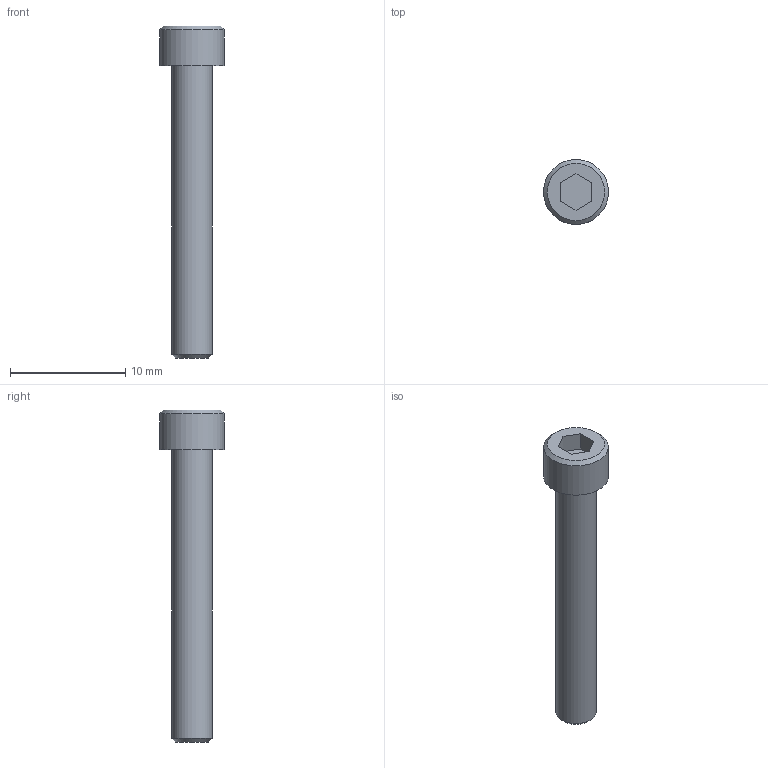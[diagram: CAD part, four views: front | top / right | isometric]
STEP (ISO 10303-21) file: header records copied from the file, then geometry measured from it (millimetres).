
FILE_DESCRIPTION((''),'2;1');
FILE_NAME('C:\Users\Stan\Desktop\import\SHCS 6-32 UNCx1.ipt.step','2011-08-18T17:44:49',(''),(''),'Autodesk Inventor 2012','Autodesk Inventor 2012','');
FILE_SCHEMA(('AUTOMOTIVE_DESIGN { 1 0 10303 214 1 1 1 1 }'));
Length unit declared in the file: inch
Products named in the file (1): SHCS 6-32 UNCx1
Bounding box: 5.64 x 5.64 x 28.85 mm (x, y, z)
Volume: 319.1 mm3; surface area: 400.6 mm2
Topology: 1 solids, 1 shells, 14 faces, 28 edges, 18 vertices
Faces by surface type: plane 10, cone 2, cylinder 2
Full cylindrical faces by diameter (mm): 3.505 x1, 5.639 x1
Entity records: 391 total; most frequent: DIRECTION 60, CARTESIAN_POINT 57, ORIENTED_EDGE 48, EDGE_CURVE 24, AXIS2_PLACEMENT_3D 21, EDGE_LOOP 20, VERTEX_POINT 18, VECTOR 18
